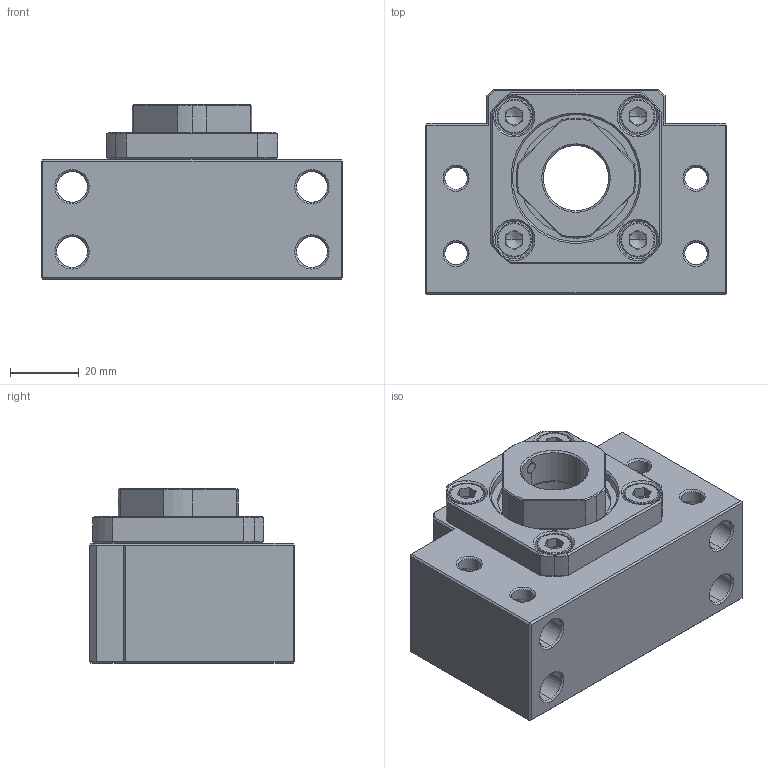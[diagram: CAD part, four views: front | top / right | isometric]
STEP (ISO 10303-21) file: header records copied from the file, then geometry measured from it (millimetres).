
FILE_DESCRIPTION (( 'STEP AP203' ), '1' );
FILE_NAME ('BSGK-20_203.STEP', '2013-02-26T01:20:41', ( '' ), ( '' ), 'SwSTEP 2.0', 'SolidWorks 2012', '' );
FILE_SCHEMA (( 'CONFIG_CONTROL_DESIGN' ));
Length unit declared in the file: millimetre
Products named in the file (1): BSGK-20_203
Bounding box: 88 x 60 x 51 mm (x, y, z)
Volume: 159605.9 mm3; surface area: 39127.6 mm2
Topology: 1 solids, 16 shells, 470 faces, 1089 edges, 636 vertices
Faces by surface type: plane 167, cylinder 143, cone 120, torus 40
Entity records: 14315 total; most frequent: CARTESIAN_POINT 3492, DIRECTION 2364, ORIENTED_EDGE 2142, EDGE_CURVE 1071, AXIS2_PLACEMENT_3D 930, VERTEX_POINT 636, EDGE_LOOP 527, VECTOR 504
